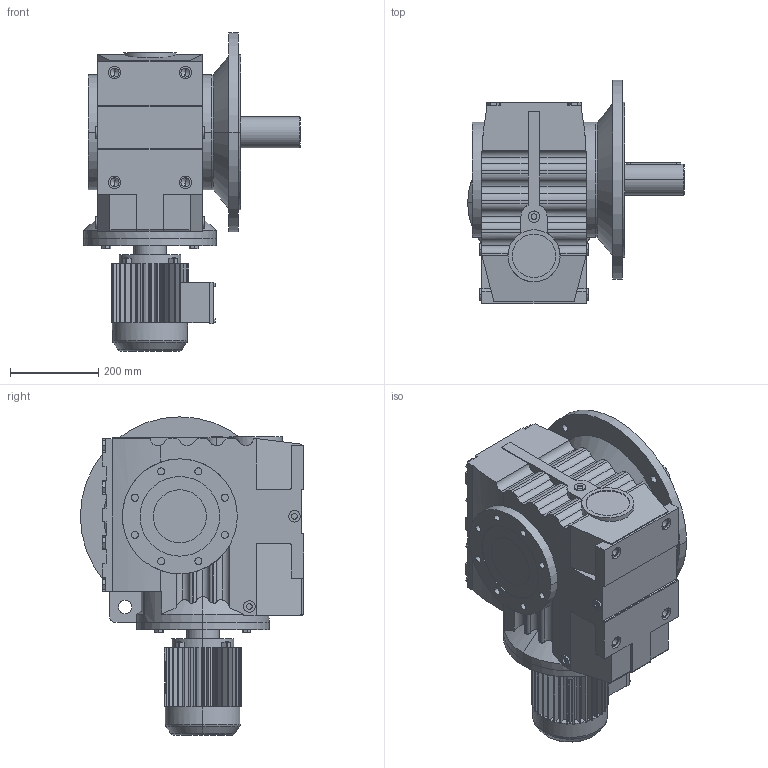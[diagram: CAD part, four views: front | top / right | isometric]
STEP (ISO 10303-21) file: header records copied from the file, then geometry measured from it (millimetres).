
FILE_DESCRIPTION(('Open CASCADE Model'),'2;1');
FILE_NAME('Open CASCADE Shape Model','2021-07-20T11:01:42',('Author'),( 'Open CASCADE'),'Open CASCADE STEP processor 6.3','Open CASCADE 6.3' ,'Unknown');
FILE_SCHEMA(('AUTOMOTIVE_DESIGN_CC2 { 1 2 10303 214 -1 1 5 4 }'));
Length unit declared in the file: millimetre
Products named in the file (5): 1_SF97-Y80M-A; SA47‵97_97.step; 萇儂_300_Y80M.step; す瑩妗陑粣S_97_SF.step; 楊擘S_97_450_SF.step
Assembly tree (4 placements, depth 2):
  1_SF97-Y80M-A
    SA47‵97_97.step
    萇儂_300_Y80M.step
    す瑩妗陑粣S_97_SF.step
    楊擘S_97_450_SF.step
Bounding box: 490 x 505 x 720 mm (x, y, z)
Volume: 53480062.3 mm3; surface area: 1996394.1 mm2
Topology: 4 solids, 4 shells, 859 faces, 2226 edges, 1439 vertices
Faces by surface type: plane 532, cylinder 298, cone 25, torus 4
Entity records: 64589 total; most frequent: CARTESIAN_POINT 22902, DIRECTION 7046, ORIENTED_EDGE 4432, PCURVE 4432, DEFINITIONAL_REPRESENTATION 4432, LINE 3540, VECTOR 3540, EDGE_CURVE 2216
